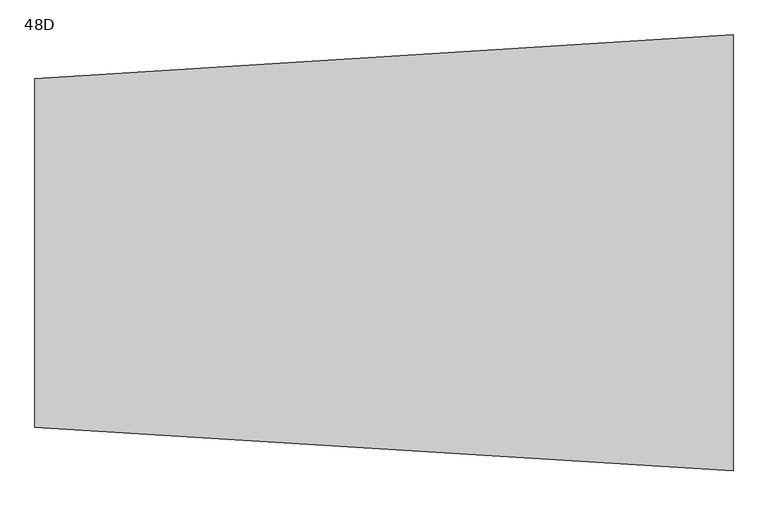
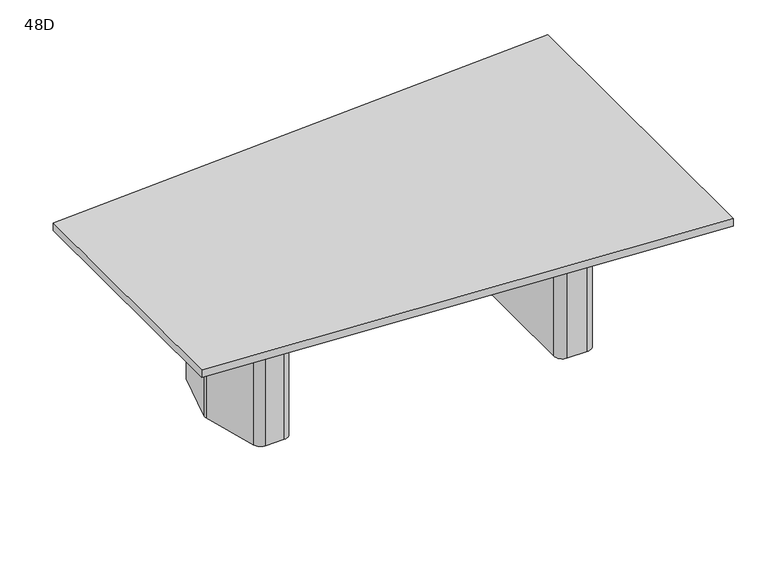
"""IFC4 building model written with IfcOpenShell, lengths in millimetres: furniture geometry, Coalesse_AM_Table_Conference_ETable2_Trapezoid_96in_TwoBase : 48D."""

from ifc_helpers import new_model, si_unit, point, frame, frame_2d, origin, origin_with_axes, place, context, project, spatial, polyline, circle_curve, trimmed, segment, composite_curve, outline, extrude, source, transform, mapped, element, save
from ifc_brep_helpers import plane_surface, cylinder_surface, revolved_surface, advanced_brep


def furniture_48d_b79b6635(model_context):
    return source(origin(), model_context, "Body", "SolidModel", [
        extrude(outline(composite_curve([segment(polyline([(836.6125, 101.7236478), (836.6125, -97.2761514)]), True, "CONTINUOUS"), segment(trimmed(circle_curve(frame_2d((798.5125, -97.2761514)), 38.1), [point((836.6125, -97.2761514))], [point((834.8491129, -108.7330515))], False, "CARTESIAN"), True, "CONTINUOUS"), segment(polyline([(834.8491129, -108.7330515), (776.4245591, -294.0319001)]), True, "CONTINUOUS"), segment(trimmed(circle_curve(frame_2d((740.0879462, -282.575)), 38.1), [point((776.4245591, -294.0319001))], [point((740.0879462, -320.675))], False, "CARTESIAN"), True, "CONTINUOUS"), segment(polyline([(740.0879462, -320.675), (673.1, -320.675)]), True, "CONTINUOUS"), segment(trimmed(circle_curve(frame_2d((673.1, -282.575)), 38.1), [point((673.1, -320.675))], [point((635.0, -282.575))], False, "CARTESIAN"), True, "CONTINUOUS"), segment(polyline([(635.0, -282.575), (635.0, 282.575)]), True, "CONTINUOUS"), segment(trimmed(circle_curve(frame_2d((673.1, 282.575)), 38.1), [point((635.0, 282.575))], [point((673.1, 320.675))], False, "CARTESIAN"), True, "CONTINUOUS"), segment(polyline([(673.1, 320.675), (743.8373998, 320.675)]), True, "CONTINUOUS"), segment(trimmed(circle_curve(frame_2d((743.8373998, 282.575)), 38.1), [point((743.8373998, 320.675))], [point((780.3072049, 293.6005756))], False, "CARTESIAN"), True, "CONTINUOUS"), segment(polyline([(780.3072049, 293.6005756), (834.9823051, 112.7492234)]), True, "CONTINUOUS"), segment(trimmed(circle_curve(frame_2d((798.5125, 101.7236478)), 38.1), [point((834.9823051, 112.7492234))], [point((836.6125, 101.7236478))], False, "CARTESIAN"), True, "CONTINUOUS")], self_intersect=False)), origin_with_axes(), (0.0, 0.0, 1.0), 3.175),
        extrude(outline(composite_curve([segment(polyline([(657.225, 381.0), (745.3721663, 381.0)]), True, "CONTINUOUS"), segment(trimmed(circle_curve(frame_2d((745.3721663, 339.725)), 41.275), [point((745.3721663, 381.0))], [point((784.7368303, 352.1366418))], False, "CARTESIAN"), True, "CONTINUOUS"), segment(polyline([(784.7368303, 352.1366418), (891.8518053, 12.4116418)]), True, "CONTINUOUS"), segment(trimmed(circle_curve(frame_2d((852.4871413, 0.0)), 41.275), [point((891.8518053, 12.4116418))], [point((891.8518053, -12.4116418))], False, "CARTESIAN"), True, "CONTINUOUS"), segment(polyline([(891.8518053, -12.4116418), (784.7368303, -352.1366418)]), True, "CONTINUOUS"), segment(trimmed(circle_curve(frame_2d((745.3721663, -339.725)), 41.275), [point((784.7368303, -352.1366418))], [point((745.3721663, -381.0))], False, "CARTESIAN"), True, "CONTINUOUS"), segment(polyline([(745.3721663, -381.0), (650.875, -381.0)]), True, "CONTINUOUS"), segment(trimmed(circle_curve(frame_2d((650.875, -339.725)), 41.275), [point((650.875, -381.0))], [point((609.6, -339.725))], False, "CARTESIAN"), True, "CONTINUOUS"), segment(polyline([(609.6, -339.725), (609.6, 333.375)]), True, "CONTINUOUS"), segment(trimmed(circle_curve(frame_2d((657.225, 333.375)), 47.625), [point((609.6, 333.375))], [point((657.225, 381.0))], False, "CARTESIAN"), True, "CONTINUOUS")], self_intersect=False), holes=[composite_curve([segment(trimmed(circle_curve(frame_2d((673.1, -282.575)), 25.4), [point((647.7, -282.575))], [point((673.1, -307.975))], True, "CARTESIAN"), True, "CONTINUOUS"), segment(polyline([(673.1, -307.975), (740.0879462, -307.975)]), True, "CONTINUOUS"), segment(trimmed(circle_curve(frame_2d((740.0879462, -282.575)), 25.4), [point((740.0879462, -307.975))], [point((764.3123548, -290.2129334))], True, "CARTESIAN"), True, "CONTINUOUS"), segment(polyline([(764.3123548, -290.2129334), (822.7369086, -104.9140848)]), True, "CONTINUOUS"), segment(trimmed(circle_curve(frame_2d((798.5125, -97.2761514)), 25.4), [point((822.7369086, -104.9140848))], [point((823.9125, -97.2761514))], True, "CARTESIAN"), True, "CONTINUOUS"), segment(polyline([(823.9125, -97.2761514), (823.9125, 101.7236478)]), True, "CONTINUOUS"), segment(trimmed(circle_curve(frame_2d((798.5125, 101.7236478)), 25.4), [point((823.9125, 101.7236478))], [point((822.8257034, 109.0740316))], True, "CARTESIAN"), True, "CONTINUOUS"), segment(polyline([(822.8257034, 109.0740316), (768.1506032, 289.9253837)]), True, "CONTINUOUS"), segment(trimmed(circle_curve(frame_2d((743.8373998, 282.575)), 25.4), [point((768.1506032, 289.9253837))], [point((743.8373998, 307.975))], True, "CARTESIAN"), True, "CONTINUOUS"), segment(polyline([(743.8373998, 307.975), (673.1, 307.975)]), True, "CONTINUOUS"), segment(trimmed(circle_curve(frame_2d((673.1, 282.575)), 25.4), [point((673.1, 307.975))], [point((647.7, 282.575))], True, "CARTESIAN"), True, "CONTINUOUS"), segment(polyline([(647.7, 282.575), (647.7, -282.575)]), True, "CONTINUOUS")], self_intersect=False)]), frame((0.0, 0.0, 3.175), z_axis=(0.0, 0.0, 1.0), x_axis=(1.0, 0.0, 0.0)), (0.0, 0.0, 1.0), 695.325),
        advanced_brep(
        [(-780.468298, 274.2093613, 698.5), (-851.0941401, 10.6333708, 698.5), (-851.0941401, -10.6333708, 698.5), (-780.468298, -274.2093613, 698.5), (-740.6016746, -304.8, 698.5), (-651.66875, -304.8, 698.5), (-610.39375, -263.525, 698.5), (-610.39375, 263.525, 698.5), (-651.66875, 304.8, 698.5), (-740.6016746, 304.8, 698.5), (-648.49375, -206.375, 698.5), (-673.89375, -231.775, 698.5), (-732.9045922, -231.775, 698.5), (-757.439088, -212.9490792, 698.5), (-796.13125, -68.54974, 698.5), (-796.13125, 68.54974, 698.5), (-757.439088, 212.9490792, 698.5), (-732.9045922, 231.775, 698.5), (-673.89375, 231.775, 698.5), (-648.49375, 206.375, 698.5), (-780.468298, 274.2093613, 3.175), (-740.6016746, 304.8, 3.175), (-651.66875, 304.8, 3.175), (-610.39375, 263.525, 3.175), (-610.39375, -263.525, 3.175), (-651.66875, -304.8, 3.175), (-740.6016746, -304.8, 3.175), (-780.468298, -274.2093613, 3.175), (-851.0941401, -10.6333708, 3.175), (-851.0941401, 10.6333708, 3.175), (-769.7063359, 216.2361187, 3.175), (-808.83125, 70.2217466, 3.175), (-808.83125, -70.2217466, 3.175), (-769.7063359, -216.2361187, 3.175), (-732.9045922, -244.475, 3.175), (-673.89375, -244.475, 3.175), (-635.79375, -206.375, 3.175), (-635.79375, 206.375, 3.175), (-673.89375, 244.475, 3.175), (-732.9045922, 244.475, 3.175), (-648.49375, -206.375, 3.175), (-673.89375, -231.775, 3.175), (-732.9045922, -231.775, 3.175), (-757.439088, -212.9490792, 3.175), (-796.13125, -68.54974, 3.175), (-796.13125, 68.54974, 3.175), (-757.439088, 212.9490792, 3.175), (-732.9045922, 231.775, 3.175), (-673.89375, 231.775, 3.175), (-648.49375, 206.375, 3.175), (-769.7063359, 216.2361187, 0.0), (-732.9045922, 244.475, 0.0), (-673.89375, 244.475, 0.0), (-635.79375, 206.375, 0.0), (-635.79375, -206.375, 0.0), (-673.89375, -244.475, 0.0), (-732.9045922, -244.475, 0.0), (-769.7063359, -216.2361187, 0.0), (-808.83125, -70.2217466, 0.0), (-808.83125, 70.2217466, 0.0)],
        [
            (0, 1),
            (1, 2, circle_curve(frame((-811.4103479, 0.0, 698.5), z_axis=(0.0, 0.0, 1.0), x_axis=(1.0, 0.0, 0.0)), 41.0837187)),
            (2, 3),
            (3, 4, circle_curve(frame((-740.6016746, -263.5270004, 698.5), z_axis=(0.0, 0.0, 1.0), x_axis=(1.0, 0.0, 0.0)), 41.2729996)),
            (4, 5),
            (5, 6, circle_curve(frame((-651.66875, -263.525, 698.5), z_axis=(0.0, 0.0, 1.0), x_axis=(1.0, 0.0, 0.0)), 41.275)),
            (6, 7),
            (7, 8, circle_curve(frame((-651.66875, 263.525, 698.5), z_axis=(0.0, 0.0, 1.0), x_axis=(1.0, 0.0, 0.0)), 41.275)),
            (8, 9),
            (9, 0, circle_curve(frame((-740.6016746, 263.5270004, 698.5), z_axis=(0.0, 0.0, 1.0), x_axis=(1.0, 0.0, 0.0)), 41.2729996)),
            (10, 11, circle_curve(frame((-673.89375, -206.375, 698.5), z_axis=(0.0, 0.0, -1.0), x_axis=(1.0, 0.0, 0.0)), 25.4)),
            (11, 12),
            (12, 13, circle_curve(frame((-732.9045922, -206.375, 698.5), z_axis=(0.0, 0.0, -1.0), x_axis=(1.0, 0.0, 0.0)), 25.4)),
            (13, 14),
            (14, 15),
            (15, 16),
            (16, 17, circle_curve(frame((-732.9045922, 206.375, 698.5), z_axis=(0.0, 0.0, -1.0), x_axis=(1.0, 0.0, 0.0)), 25.4)),
            (17, 18),
            (18, 19, circle_curve(frame((-673.89375, 206.375, 698.5), z_axis=(0.0, 0.0, -1.0), x_axis=(1.0, 0.0, 0.0)), 25.4)),
            (19, 10),
            (20, 21, circle_curve(frame((-740.6016746, 263.5270004, 3.175), z_axis=(0.0, 0.0, -1.0), x_axis=(1.0, 0.0, 0.0)), 41.2729996)),
            (21, 22),
            (22, 23, circle_curve(frame((-651.66875, 263.525, 3.175), z_axis=(0.0, 0.0, -1.0), x_axis=(1.0, 0.0, 0.0)), 41.275)),
            (23, 24),
            (24, 25, circle_curve(frame((-651.66875, -263.525, 3.175), z_axis=(0.0, 0.0, -1.0), x_axis=(1.0, 0.0, 0.0)), 41.275)),
            (25, 26),
            (26, 27, circle_curve(frame((-740.6016746, -263.5270004, 3.175), z_axis=(0.0, 0.0, -1.0), x_axis=(1.0, 0.0, 0.0)), 41.2729996)),
            (27, 28),
            (28, 29, circle_curve(frame((-811.4103479, 0.0, 3.175), z_axis=(0.0, 0.0, -1.0), x_axis=(1.0, 0.0, 0.0)), 41.0837187)),
            (29, 20),
            (30, 31),
            (31, 32),
            (32, 33),
            (33, 34, circle_curve(frame((-732.9045922, -206.375, 3.175), z_axis=(0.0, 0.0, 1.0), x_axis=(1.0, 0.0, 0.0)), 38.1)),
            (34, 35),
            (35, 36, circle_curve(frame((-673.89375, -206.375, 3.175), z_axis=(0.0, 0.0, 1.0), x_axis=(1.0, 0.0, 0.0)), 38.1)),
            (36, 37),
            (37, 38, circle_curve(frame((-673.89375, 206.375, 3.175), z_axis=(0.0, 0.0, 1.0), x_axis=(1.0, 0.0, 0.0)), 38.1)),
            (38, 39),
            (39, 30, circle_curve(frame((-732.9045922, 206.375, 3.175), z_axis=(0.0, 0.0, 1.0), x_axis=(1.0, 0.0, 0.0)), 38.1)),
            (0, 20),
            (29, 1),
            (28, 2),
            (27, 3),
            (26, 4),
            (25, 5),
            (24, 6),
            (23, 7),
            (22, 8),
            (21, 9),
            (10, 40),
            (40, 41, circle_curve(frame((-673.89375, -206.375, 3.175), z_axis=(0.0, 0.0, -1.0), x_axis=(1.0, 0.0, 0.0)), 25.4)),
            (41, 11),
            (41, 42),
            (42, 12),
            (42, 43, circle_curve(frame((-732.9045922, -206.375, 3.175), z_axis=(0.0, 0.0, -1.0), x_axis=(1.0, 0.0, 0.0)), 25.4)),
            (43, 13),
            (43, 44),
            (44, 14),
            (44, 45),
            (45, 15),
            (45, 46),
            (46, 16),
            (46, 47, circle_curve(frame((-732.9045922, 206.375, 3.175), z_axis=(0.0, 0.0, -1.0), x_axis=(1.0, 0.0, 0.0)), 25.4)),
            (47, 17),
            (47, 48),
            (48, 18),
            (48, 49, circle_curve(frame((-673.89375, 206.375, 3.175), z_axis=(0.0, 0.0, -1.0), x_axis=(1.0, 0.0, 0.0)), 25.4)),
            (49, 19),
            (49, 40),
            (50, 51, circle_curve(frame((-732.9045922, 206.375, 0.0), z_axis=(0.0, 0.0, -1.0), x_axis=(1.0, 0.0, 0.0)), 38.1)),
            (51, 52),
            (52, 53, circle_curve(frame((-673.89375, 206.375, 0.0), z_axis=(0.0, 0.0, -1.0), x_axis=(1.0, 0.0, 0.0)), 38.1)),
            (53, 54),
            (54, 55, circle_curve(frame((-673.89375, -206.375, 0.0), z_axis=(0.0, 0.0, -1.0), x_axis=(1.0, 0.0, 0.0)), 38.1)),
            (55, 56),
            (56, 57, circle_curve(frame((-732.9045922, -206.375, 0.0), z_axis=(0.0, 0.0, -1.0), x_axis=(1.0, 0.0, 0.0)), 38.1)),
            (57, 58),
            (58, 59),
            (59, 50),
            (59, 31),
            (30, 50),
            (58, 32),
            (57, 33),
            (56, 34),
            (55, 35),
            (54, 36),
            (53, 37),
            (52, 38),
            (51, 39),
        ],
        [
            plane_surface(frame((-851.0811775, 10.6817473, 698.5), z_axis=(0.0, 0.0, 1.0000000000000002), x_axis=(-0.25882201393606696, -0.9659250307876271, 0.0))),
            plane_surface(frame((-851.0811775, 10.6817473, 3.175), z_axis=(0.0, 0.0, -1.0000000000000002), x_axis=(0.25882201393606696, 0.9659250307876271, 0.0))),
            plane_surface(frame((-780.468298, 274.2093613, 698.5), z_axis=(-0.9659250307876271, 0.25882201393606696, 0.0), x_axis=(0.0, 0.0, -1.0))),
            cylinder_surface(frame((-811.4103479, 0.0, 3.175), z_axis=(0.0, 0.0, 1.0), x_axis=(1.0, 0.0, 0.0)), 41.0837187),
            plane_surface(frame((-851.0941401, -10.6333708, 698.5), z_axis=(-0.9659250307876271, -0.2588220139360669, 0.0), x_axis=(0.0, 0.0, -1.0))),
            cylinder_surface(frame((-740.6016746, -263.5270004, 3.175), z_axis=(0.0, 0.0, 1.0), x_axis=(1.0, 0.0, 0.0)), 41.2729996),
            plane_surface(frame((-740.6016746, -304.8, 698.5), z_axis=(0.0, -1.0, 0.0), x_axis=(0.0, 0.0, -1.0))),
            cylinder_surface(frame((-651.66875, -263.525, 3.175), z_axis=(0.0, 0.0, 1.0), x_axis=(1.0, 0.0, 0.0)), 41.275),
            plane_surface(frame((-610.39375, -263.525, 698.5), z_axis=(1.0, 0.0, 0.0), x_axis=(0.0, 0.0, -1.0))),
            cylinder_surface(frame((-651.66875, 263.525, 3.175), z_axis=(0.0, 0.0, 1.0), x_axis=(1.0, 0.0, 0.0)), 41.275),
            plane_surface(frame((-651.66875, 304.8, 698.5), z_axis=(0.0, 1.0, 0.0), x_axis=(0.0, 0.0, -1.0))),
            cylinder_surface(frame((-740.6016746, 263.5270004, 3.175), z_axis=(0.0, 0.0, 1.0), x_axis=(1.0, 0.0, 0.0)), 41.2729996),
            revolved_surface(polyline([(-648.49375, -206.375, 3.175), (-648.49375, -206.375, 698.5)]), (-673.89375, -206.375, 0.0), (0.0, 0.0, -1.0)),
            plane_surface(frame((-673.89375, -231.775, 698.5), z_axis=(0.0, 1.0, 0.0), x_axis=(0.0, 0.0, -1.0))),
            revolved_surface(polyline([(-707.5045922, -206.375, 3.175), (-707.5045922, -206.375, 698.5)]), (-732.9045922, -206.375, 0.0), (0.0, 0.0, -1.0)),
            plane_surface(frame((-757.439088, -212.9490792, 698.5), z_axis=(0.9659250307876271, 0.2588220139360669, 0.0), x_axis=(0.0, 0.0, -1.0))),
            plane_surface(frame((-796.13125, -68.54974, 698.5), z_axis=(1.0, 0.0, 0.0), x_axis=(0.0, 0.0, -1.0))),
            plane_surface(frame((-796.13125, 68.54974, 698.5), z_axis=(0.9659250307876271, -0.25882201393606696, 0.0), x_axis=(0.0, 0.0, -1.0))),
            revolved_surface(polyline([(-707.5045922, 206.375, 3.175), (-707.5045922, 206.375, 698.5)]), (-732.9045922, 206.375, 0.0), (0.0, 0.0, -1.0)),
            plane_surface(frame((-732.9045922, 231.775, 698.5), z_axis=(0.0, -1.0, 0.0), x_axis=(0.0, 0.0, -1.0))),
            revolved_surface(polyline([(-648.49375, 206.375, 3.175), (-648.49375, 206.375, 698.5)]), (-673.89375, 206.375, 0.0), (0.0, 0.0, -1.0)),
            plane_surface(frame((-648.49375, 206.375, 698.5), z_axis=(-1.0, 0.0, 0.0), x_axis=(0.0, 0.0, -1.0))),
            plane_surface(frame((-808.3984979, 71.8367796, 3.175), z_axis=(0.0, 0.0, 1.0), x_axis=(-0.25882201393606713, -0.965925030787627, 0.0))),
            plane_surface(frame((-808.3984979, 71.8367796, 0.0), z_axis=(0.0, 0.0, -1.0), x_axis=(0.25882201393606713, 0.965925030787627, 0.0))),
            plane_surface(frame((-769.7063359, 216.2361187, 3.175), z_axis=(-0.965925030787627, 0.25882201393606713, 0.0), x_axis=(0.0, 0.0, -1.0))),
            plane_surface(frame((-808.83125, 70.2217466, 3.175), z_axis=(-1.0, 0.0, 0.0), x_axis=(0.0, 0.0, -1.0))),
            plane_surface(frame((-808.83125, -70.2217466, 3.175), z_axis=(-0.9659250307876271, -0.2588220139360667, 0.0), x_axis=(0.0, 0.0, -1.0))),
            cylinder_surface(frame((-732.9045922, -206.375, 0.0), z_axis=(0.0, 0.0, 1.0), x_axis=(1.0, 0.0, 0.0)), 38.1),
            plane_surface(frame((-732.9045922, -244.475, 3.175), z_axis=(0.0, -1.0, 0.0), x_axis=(0.0, 0.0, -1.0))),
            cylinder_surface(frame((-673.89375, -206.375, 0.0), z_axis=(0.0, 0.0, 1.0), x_axis=(1.0, 0.0, 0.0)), 38.1),
            plane_surface(frame((-635.79375, -206.375, 3.175), z_axis=(1.0, 0.0, 0.0), x_axis=(0.0, 0.0, -1.0))),
            cylinder_surface(frame((-673.89375, 206.375, 0.0), z_axis=(0.0, 0.0, 1.0), x_axis=(1.0, 0.0, 0.0)), 38.1),
            plane_surface(frame((-673.89375, 244.475, 3.175), z_axis=(0.0, 1.0, 0.0), x_axis=(0.0, 0.0, -1.0))),
            cylinder_surface(frame((-732.9045922, 206.375, 0.0), z_axis=(0.0, 0.0, 1.0), x_axis=(1.0, 0.0, 0.0)), 38.1),
        ],
        [
            (0, [[1, 2, 3, 4, 5, 6, 7, 8, 9, 10], [11, 12, 13, 14, 15, 16, 17, 18, 19, 20]]),
            (1, [[21, 22, 23, 24, 25, 26, 27, 28, 29, 30], [31, 32, 33, 34, 35, 36, 37, 38, 39, 40]]),
            (2, [[-1, 41, -30, 42]]),
            (3, [[-2, -42, -29, 43]]),
            (4, [[-3, -43, -28, 44]]),
            (5, [[-4, -44, -27, 45]]),
            (6, [[-5, -45, -26, 46]]),
            (7, [[-6, -46, -25, 47]]),
            (8, [[-7, -47, -24, 48]]),
            (9, [[-8, -48, -23, 49]]),
            (10, [[-9, -49, -22, 50]]),
            (11, [[-10, -50, -21, -41]]),
            (12, [[-11, 51, 52, 53]]),
            (13, [[-12, -53, 54, 55]]),
            (14, [[-13, -55, 56, 57]]),
            (15, [[-14, -57, 58, 59]]),
            (16, [[-15, -59, 60, 61]]),
            (17, [[-16, -61, 62, 63]]),
            (18, [[-17, -63, 64, 65]]),
            (19, [[-18, -65, 66, 67]]),
            (20, [[-19, -67, 68, 69]]),
            (21, [[-20, -69, 70, -51]]),
            (22, [[-52, -70, -68, -66, -64, -62, -60, -58, -56, -54]]),
            (23, [[71, 72, 73, 74, 75, 76, 77, 78, 79, 80]]),
            (24, [[-80, 81, -31, 82]]),
            (25, [[-79, 83, -32, -81]]),
            (26, [[-78, 84, -33, -83]]),
            (27, [[-77, 85, -34, -84]]),
            (28, [[-76, 86, -35, -85]]),
            (29, [[-75, 87, -36, -86]]),
            (30, [[-74, 88, -37, -87]]),
            (31, [[-73, 89, -38, -88]]),
            (32, [[-72, 90, -39, -89]]),
            (33, [[-71, -82, -40, -90]]),
        ],
    ),
        extrude(outline(polyline([(96.8375, 698.5), (103.1875, 698.5), (103.1875, 476.25), (-103.1875, 476.25), (-103.1875, 698.5), (-96.8375, 698.5), (-96.8375, 482.6), (96.8375, 482.6), (96.8375, 698.5)])), frame((-610.39375, 0.0, 0.0), z_axis=(1.0, 0.0, 0.0), x_axis=(0.0, 1.0, 0.0)), (0.0, 0.0, 1.0), 1219.99375),
        extrude(outline(polyline([(-1219.2, -609.6), (-1219.2, 609.6), (1219.2, 762.0), (1219.2, -762.0), (-1219.2, -609.6)])), frame((0.0, 0.0, 698.5), z_axis=(0.0, 0.0, 1.0), x_axis=(1.0, 0.0, 0.0)), (0.0, 0.0, 1.0), 38.1),
    ])


if __name__ == "__main__":
    model = new_model("IFC4")
    model_context = context("Model", 3, world=origin())
    ifc_project = project(units=[si_unit("LENGTHUNIT", "METRE", prefix="MILLI")], contexts=[model_context])
    site = spatial("IfcSite", under=ifc_project)
    building = spatial("IfcBuilding", under=site)
    placement = place(None, origin())
    furniture_48d_shape = furniture_48d_b79b6635(model_context)
    element("IfcFurniture", 1, ObjectType="Coalesse_AM_Table_Conference_ETable2_Trapezoid_96in_TwoBase : 48D", at=placement, inside=building, context=model_context, shape_type="MappedRepresentation", body=[
        mapped(furniture_48d_shape, transform((0.0, 0.0, 0.0), x_axis=(1.0, 0.0, 0.0), y_axis=(0.0, 1.0, 0.0), z_axis=(0.0, 0.0, 1.0))),
    ])
    save(model, "model.ifc")
